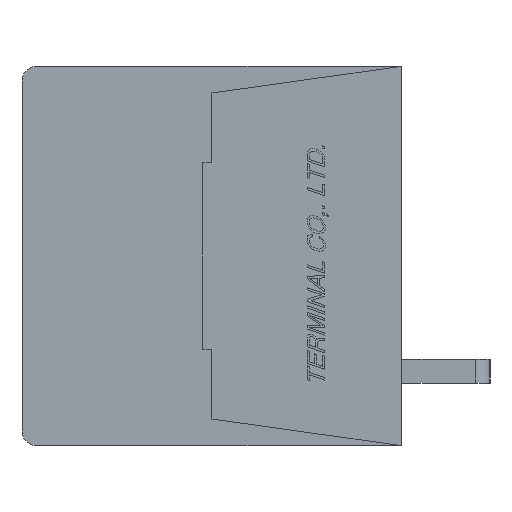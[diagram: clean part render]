
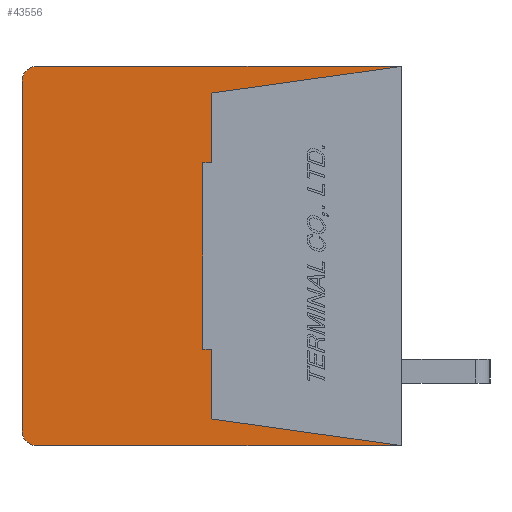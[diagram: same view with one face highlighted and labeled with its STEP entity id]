
A CAD part, left-side view. The second image highlights one B-rep face of the part: STEP entity #43556.
In plain terms, the highlighted planar face has unit normal (-1, 0, 0).
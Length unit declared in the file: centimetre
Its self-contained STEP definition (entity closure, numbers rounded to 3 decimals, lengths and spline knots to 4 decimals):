
#372=CIRCLE('',#74815,0.05);
#373=CIRCLE('',#74816,0.05);
#2716=VERTEX_POINT('',#57587);
#2717=VERTEX_POINT('',#57589);
#2718=VERTEX_POINT('',#57593);
#2719=VERTEX_POINT('',#57597);
#2720=VERTEX_POINT('',#57601);
#2721=VERTEX_POINT('',#57605);
#2722=VERTEX_POINT('',#57609);
#2723=VERTEX_POINT('',#57613);
#2724=VERTEX_POINT('',#57617);
#2725=VERTEX_POINT('',#57619);
#2726=VERTEX_POINT('',#57621);
#2727=VERTEX_POINT('',#57623);
#7280=VECTOR('',#48544,1.);
#7283=VECTOR('',#48548,1.);
#7285=VECTOR('',#48551,1.);
#7287=VECTOR('',#48554,1.);
#7289=VECTOR('',#48557,1.);
#7291=VECTOR('',#48560,1.);
#7293=VECTOR('',#48563,1.);
#7294=VECTOR('',#48565,1.);
#7295=VECTOR('',#48568,1.);
#7296=VECTOR('',#48571,1.);
#12484=LINE('',#57588,#7280);
#12487=LINE('',#57594,#7283);
#12489=LINE('',#57598,#7285);
#12491=LINE('',#57602,#7287);
#12493=LINE('',#57606,#7289);
#12495=LINE('',#57610,#7291);
#12497=LINE('',#57614,#7293);
#12498=LINE('',#57616,#7294);
#12499=LINE('',#57620,#7295);
#12500=LINE('',#57624,#7296);
#17796=EDGE_CURVE('',#2717,#2716,#12484,.T.);
#17799=EDGE_CURVE('',#2716,#2718,#12487,.T.);
#17801=EDGE_CURVE('',#2718,#2719,#12489,.T.);
#17803=EDGE_CURVE('',#2719,#2720,#12491,.T.);
#17805=EDGE_CURVE('',#2720,#2721,#12493,.T.);
#17807=EDGE_CURVE('',#2721,#2722,#12495,.T.);
#17809=EDGE_CURVE('',#2722,#2723,#12497,.T.);
#17810=EDGE_CURVE('',#2723,#2724,#12498,.T.);
#17811=EDGE_CURVE('',#2725,#2724,#372,.T.);
#17812=EDGE_CURVE('',#2725,#2726,#12499,.T.);
#17813=EDGE_CURVE('',#2727,#2726,#373,.T.);
#17814=EDGE_CURVE('',#2727,#2717,#12500,.T.);
#25075=ORIENTED_EDGE('',*,*,#17796,.T.);
#25076=ORIENTED_EDGE('',*,*,#17799,.T.);
#25077=ORIENTED_EDGE('',*,*,#17801,.T.);
#25078=ORIENTED_EDGE('',*,*,#17803,.T.);
#25079=ORIENTED_EDGE('',*,*,#17805,.T.);
#25080=ORIENTED_EDGE('',*,*,#17807,.T.);
#25081=ORIENTED_EDGE('',*,*,#17809,.T.);
#25082=ORIENTED_EDGE('',*,*,#17810,.T.);
#25083=ORIENTED_EDGE('',*,*,#17811,.F.);
#25084=ORIENTED_EDGE('',*,*,#17812,.T.);
#25085=ORIENTED_EDGE('',*,*,#17813,.F.);
#25086=ORIENTED_EDGE('',*,*,#17814,.T.);
#37730=EDGE_LOOP('',(#25075,#25076,#25077,#25078,#25079,#25080,#25081,#25082,
#25083,#25084,#25085,#25086));
#40656=FACE_BOUND('',#37730,.T.);
#43556=ADVANCED_FACE('',(#40656),#46158,.F.);
#46158=PLANE('',#74814);
#48544=DIRECTION('',(0.,0.99,0.139));
#48548=DIRECTION('',(0.,0.,1.));
#48551=DIRECTION('',(0.,1.,0.));
#48554=DIRECTION('',(0.,0.,1.));
#48557=DIRECTION('',(0.,-1.,0.));
#48560=DIRECTION('',(0.,0.,1.));
#48563=DIRECTION('',(0.,-0.99,0.139));
#48564=DIRECTION('',(1.,0.,0.));
#48565=DIRECTION('',(0.,1.,0.));
#48566=DIRECTION('',(1.,0.,0.));
#48567=DIRECTION('',(0.,0.,-0.05));
#48568=DIRECTION('',(0.,0.,-1.));
#48569=DIRECTION('',(1.,0.,0.));
#48570=DIRECTION('',(0.,0.,-0.05));
#48571=DIRECTION('',(0.,-1.,0.));
#57587=CARTESIAN_POINT('',(-0.889,0.64,-0.55));
#57588=CARTESIAN_POINT('',(-0.889,0.5152,-0.5675));
#57589=CARTESIAN_POINT('',(-0.889,0.,-0.64));
#57593=CARTESIAN_POINT('',(-0.889,0.64,-0.315));
#57594=CARTESIAN_POINT('',(-0.889,0.64,-0.2163));
#57597=CARTESIAN_POINT('',(-0.889,0.67,-0.315));
#57598=CARTESIAN_POINT('',(-0.889,0.6447,-0.315));
#57601=CARTESIAN_POINT('',(-0.889,0.67,0.315));
#57602=CARTESIAN_POINT('',(-0.889,0.67,0.));
#57605=CARTESIAN_POINT('',(-0.889,0.64,0.315));
#57606=CARTESIAN_POINT('',(-0.889,0.6447,0.315));
#57609=CARTESIAN_POINT('',(-0.889,0.64,0.55));
#57610=CARTESIAN_POINT('',(-0.889,0.64,0.2162));
#57613=CARTESIAN_POINT('',(-0.889,0.,0.64));
#57614=CARTESIAN_POINT('',(-0.889,0.5152,0.5675));
#57615=CARTESIAN_POINT('',(-0.889,0.6345,0.));
#57616=CARTESIAN_POINT('',(-0.889,0.,0.64));
#57617=CARTESIAN_POINT('',(-0.889,1.23,0.64));
#57618=CARTESIAN_POINT('',(-0.889,1.23,0.59));
#57619=CARTESIAN_POINT('',(-0.889,1.28,0.59));
#57620=CARTESIAN_POINT('',(-0.889,1.28,0.59));
#57621=CARTESIAN_POINT('',(-0.889,1.28,-0.59));
#57622=CARTESIAN_POINT('',(-0.889,1.23,-0.59));
#57623=CARTESIAN_POINT('',(-0.889,1.23,-0.64));
#57624=CARTESIAN_POINT('',(-0.889,1.23,-0.64));
#74814=AXIS2_PLACEMENT_3D('',#57615,#48564,$);
#74815=AXIS2_PLACEMENT_3D('',#57618,#48566,#48567);
#74816=AXIS2_PLACEMENT_3D('',#57622,#48569,#48570);
